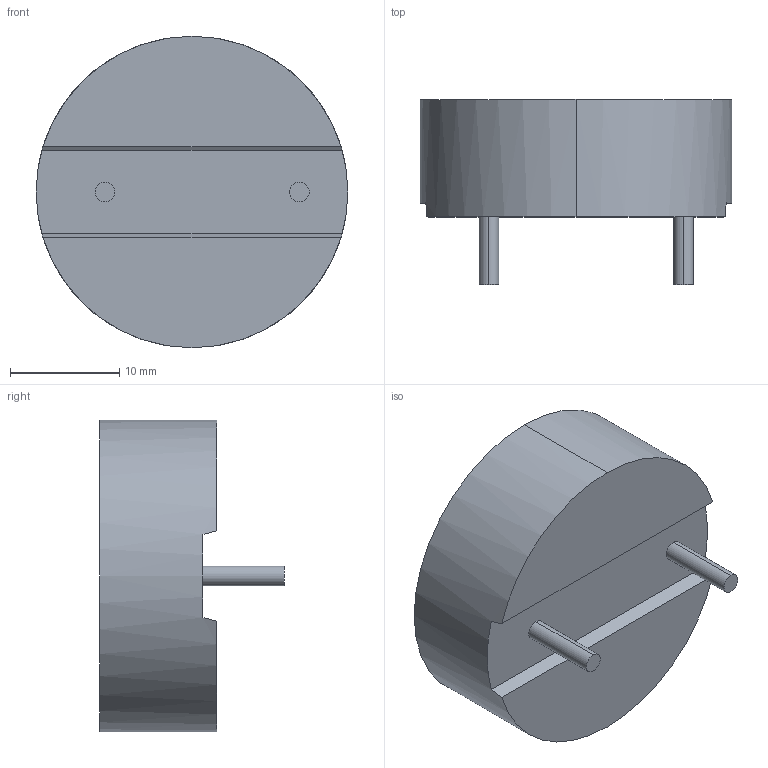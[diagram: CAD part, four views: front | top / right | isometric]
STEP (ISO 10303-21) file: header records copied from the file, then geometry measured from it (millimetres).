
FILE_DESCRIPTION (( 'STEP AP214' ), '1' );
FILE_NAME ('IHTH_IHTH1125KZ 8.2uH.step', '2014-06-30T14:01:09', ( '' ), ( '' ), 'SwSTEP 2.0', 'SolidWorks 2014', '' );
FILE_SCHEMA (( 'AUTOMOTIVE_DESIGN' ));
Length unit declared in the file: inch
Products named in the file (1): IHTH_IHTH1125KZ   8.2uH
Bounding box: 28.57 x 16.94 x 28.57 mm (x, y, z)
Volume: 6643 mm3; surface area: 2365.6 mm2
Topology: 1 solids, 1 shells, 39 faces, 90 edges, 60 vertices
Faces by surface type: plane 33, cylinder 6
Entity records: 1231 total; most frequent: CARTESIAN_POINT 202, DIRECTION 182, ORIENTED_EDGE 180, EDGE_CURVE 90, LINE 70, VECTOR 70, VERTEX_POINT 60, AXIS2_PLACEMENT_3D 56
